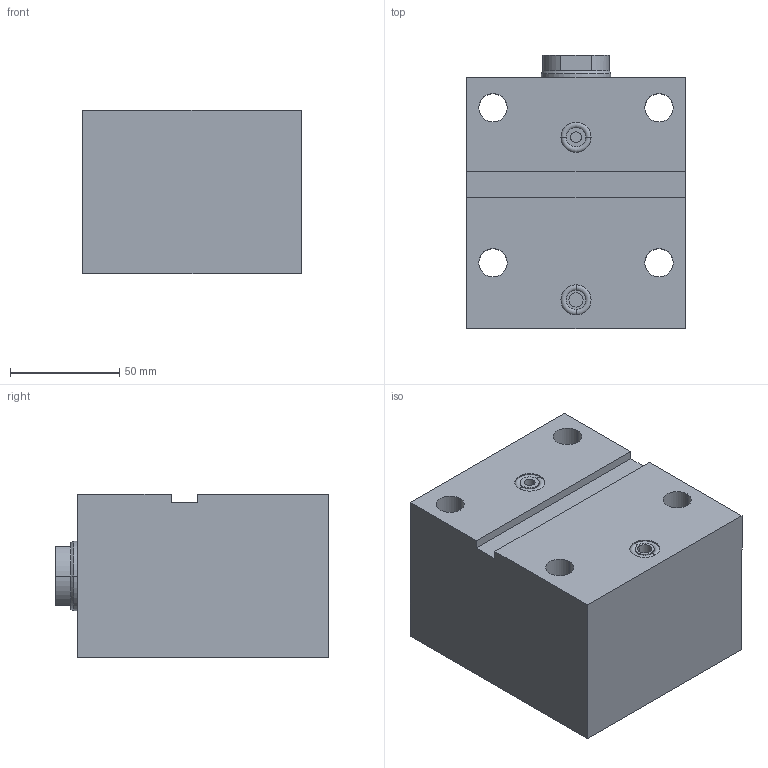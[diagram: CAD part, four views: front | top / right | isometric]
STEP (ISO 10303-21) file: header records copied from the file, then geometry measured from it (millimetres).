
FILE_DESCRIPTION (( 'STEP AP203' ), '1' );
FILE_NAME ('GERMA_Blockzylinder_603-050-050.STEP', '2016-01-24T17:20:22', ( '' ), ( '' ), 'SwSTEP 2.0', 'SolidWorks 2015', '' );
FILE_SCHEMA (( 'CONFIG_CONTROL_DESIGN' ));
Length unit declared in the file: millimetre
Products named in the file (3): GH-600-050_GH-603-050-050; GERMA_Blockzylinder_603-050-050; Kolben 60x-050_Kolben DU.50-Hub50-IG
Assembly tree (2 placements, depth 2):
  GERMA_Blockzylinder_603-050-050
    GH-600-050_GH-603-050-050
    Kolben 60x-050_Kolben DU.50-Hub50-IG
Bounding box: 100 x 125 x 75 mm (x, y, z)
Volume: 757038.2 mm3; surface area: 103021.4 mm2
Topology: 2 solids, 2 shells, 85 faces, 188 edges, 114 vertices
Faces by surface type: cylinder 41, plane 26, cone 14, torus 4
Entity records: 2638 total; most frequent: DIRECTION 459, CARTESIAN_POINT 386, ORIENTED_EDGE 364, AXIS2_PLACEMENT_3D 187, EDGE_CURVE 182, VERTEX_POINT 114, EDGE_LOOP 106, CIRCLE 97
